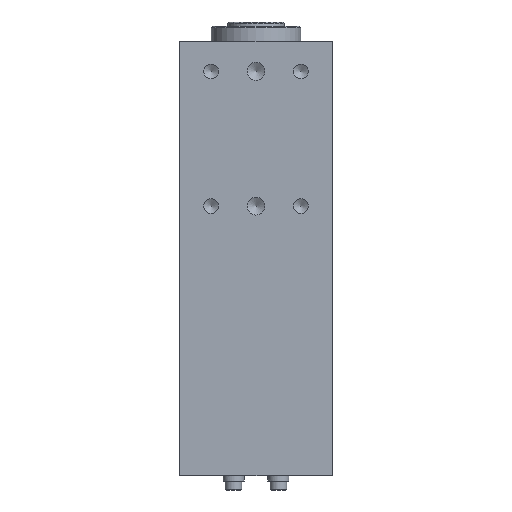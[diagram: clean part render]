
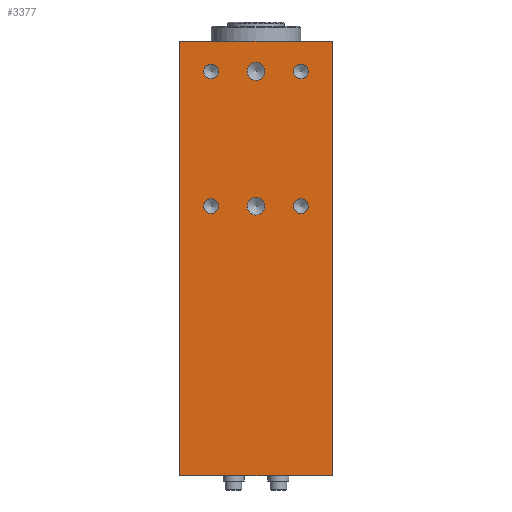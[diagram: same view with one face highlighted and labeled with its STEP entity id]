
A CAD part, front view. The second image highlights one B-rep face of the part: STEP entity #3377.
In plain terms, the highlighted planar face has unit normal (0, -1, 0) as drawn and (1, 0, 0) by its records, which use the part's own axes.
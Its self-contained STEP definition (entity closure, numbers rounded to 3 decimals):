
#240=FACE_BOUND('',#758,.T.);
#241=FACE_BOUND('',#759,.T.);
#242=FACE_BOUND('',#760,.T.);
#243=FACE_BOUND('',#761,.T.);
#244=FACE_BOUND('',#762,.T.);
#245=FACE_BOUND('',#763,.T.);
#327=PLANE('',#3853);
#544=FACE_OUTER_BOUND('',#757,.T.);
#757=EDGE_LOOP('',(#3045,#3046,#3047,#3048));
#758=EDGE_LOOP('',(#3049,#3050));
#759=EDGE_LOOP('',(#3051,#3052));
#760=EDGE_LOOP('',(#3053,#3054));
#761=EDGE_LOOP('',(#3055,#3056));
#762=EDGE_LOOP('',(#3057,#3058));
#763=EDGE_LOOP('',(#3059,#3060));
#877=LINE('',#5318,#1111);
#975=LINE('',#5825,#1209);
#987=LINE('',#5847,#1221);
#988=LINE('',#5849,#1222);
#1111=VECTOR('',#4303,10.);
#1209=VECTOR('',#4757,10.);
#1221=VECTOR('',#4789,10.);
#1222=VECTOR('',#4792,10.);
#1405=CIRCLE('',#3722,2.459);
#1406=CIRCLE('',#3723,2.459);
#1409=CIRCLE('',#3728,2.459);
#1410=CIRCLE('',#3729,2.459);
#1413=CIRCLE('',#3734,2.459);
#1414=CIRCLE('',#3735,2.459);
#1417=CIRCLE('',#3740,2.459);
#1418=CIRCLE('',#3741,2.459);
#1421=CIRCLE('',#3746,3.);
#1422=CIRCLE('',#3747,3.);
#1425=CIRCLE('',#3752,3.);
#1426=CIRCLE('',#3753,3.);
#1617=VERTEX_POINT('',#5315);
#1618=VERTEX_POINT('',#5317);
#1667=VERTEX_POINT('',#5460);
#1668=VERTEX_POINT('',#5461);
#1672=VERTEX_POINT('',#5473);
#1673=VERTEX_POINT('',#5474);
#1677=VERTEX_POINT('',#5486);
#1678=VERTEX_POINT('',#5487);
#1682=VERTEX_POINT('',#5499);
#1683=VERTEX_POINT('',#5500);
#1687=VERTEX_POINT('',#5512);
#1688=VERTEX_POINT('',#5513);
#1692=VERTEX_POINT('',#5525);
#1693=VERTEX_POINT('',#5526);
#1768=VERTEX_POINT('',#5822);
#1769=VERTEX_POINT('',#5824);
#1983=EDGE_CURVE('',#1617,#1618,#877,.T.);
#2056=EDGE_CURVE('',#1667,#1668,#1405,.T.);
#2057=EDGE_CURVE('',#1668,#1667,#1406,.T.);
#2062=EDGE_CURVE('',#1672,#1673,#1409,.T.);
#2063=EDGE_CURVE('',#1673,#1672,#1410,.T.);
#2068=EDGE_CURVE('',#1677,#1678,#1413,.T.);
#2069=EDGE_CURVE('',#1678,#1677,#1414,.T.);
#2074=EDGE_CURVE('',#1682,#1683,#1417,.T.);
#2075=EDGE_CURVE('',#1683,#1682,#1418,.T.);
#2080=EDGE_CURVE('',#1687,#1688,#1421,.T.);
#2081=EDGE_CURVE('',#1688,#1687,#1422,.T.);
#2086=EDGE_CURVE('',#1692,#1693,#1425,.T.);
#2087=EDGE_CURVE('',#1693,#1692,#1426,.T.);
#2194=EDGE_CURVE('',#1768,#1769,#975,.T.);
#2206=EDGE_CURVE('',#1618,#1768,#987,.T.);
#2207=EDGE_CURVE('',#1617,#1769,#988,.T.);
#3045=ORIENTED_EDGE('',*,*,#1983,.F.);
#3046=ORIENTED_EDGE('',*,*,#2207,.T.);
#3047=ORIENTED_EDGE('',*,*,#2194,.F.);
#3048=ORIENTED_EDGE('',*,*,#2206,.F.);
#3049=ORIENTED_EDGE('',*,*,#2056,.T.);
#3050=ORIENTED_EDGE('',*,*,#2057,.T.);
#3051=ORIENTED_EDGE('',*,*,#2062,.T.);
#3052=ORIENTED_EDGE('',*,*,#2063,.T.);
#3053=ORIENTED_EDGE('',*,*,#2068,.T.);
#3054=ORIENTED_EDGE('',*,*,#2069,.T.);
#3055=ORIENTED_EDGE('',*,*,#2074,.T.);
#3056=ORIENTED_EDGE('',*,*,#2075,.T.);
#3057=ORIENTED_EDGE('',*,*,#2080,.T.);
#3058=ORIENTED_EDGE('',*,*,#2081,.T.);
#3059=ORIENTED_EDGE('',*,*,#2086,.T.);
#3060=ORIENTED_EDGE('',*,*,#2087,.T.);
#3377=ADVANCED_FACE('',(#544,#240,#241,#242,#243,#244,#245),#327,.T.);
#3722=AXIS2_PLACEMENT_3D('',#5462,#4457,#4458);
#3723=AXIS2_PLACEMENT_3D('',#5463,#4459,#4460);
#3728=AXIS2_PLACEMENT_3D('',#5475,#4471,#4472);
#3729=AXIS2_PLACEMENT_3D('',#5476,#4473,#4474);
#3734=AXIS2_PLACEMENT_3D('',#5488,#4485,#4486);
#3735=AXIS2_PLACEMENT_3D('',#5489,#4487,#4488);
#3740=AXIS2_PLACEMENT_3D('',#5501,#4499,#4500);
#3741=AXIS2_PLACEMENT_3D('',#5502,#4501,#4502);
#3746=AXIS2_PLACEMENT_3D('',#5514,#4513,#4514);
#3747=AXIS2_PLACEMENT_3D('',#5515,#4515,#4516);
#3752=AXIS2_PLACEMENT_3D('',#5527,#4527,#4528);
#3753=AXIS2_PLACEMENT_3D('',#5528,#4529,#4530);
#3853=AXIS2_PLACEMENT_3D('',#5853,#4798,#4799);
#4303=DIRECTION('',(0.,-1.,0.));
#4457=DIRECTION('center_axis',(-1.,0.,0.));
#4458=DIRECTION('ref_axis',(0.,0.,-1.));
#4459=DIRECTION('center_axis',(-1.,0.,0.));
#4460=DIRECTION('ref_axis',(0.,0.,-1.));
#4471=DIRECTION('center_axis',(-1.,0.,0.));
#4472=DIRECTION('ref_axis',(0.,0.,-1.));
#4473=DIRECTION('center_axis',(-1.,0.,0.));
#4474=DIRECTION('ref_axis',(0.,0.,-1.));
#4485=DIRECTION('center_axis',(-1.,0.,0.));
#4486=DIRECTION('ref_axis',(0.,0.,-1.));
#4487=DIRECTION('center_axis',(-1.,0.,0.));
#4488=DIRECTION('ref_axis',(0.,0.,-1.));
#4499=DIRECTION('center_axis',(-1.,0.,0.));
#4500=DIRECTION('ref_axis',(0.,0.,-1.));
#4501=DIRECTION('center_axis',(-1.,0.,0.));
#4502=DIRECTION('ref_axis',(0.,0.,-1.));
#4513=DIRECTION('center_axis',(-1.,0.,0.));
#4514=DIRECTION('ref_axis',(0.,0.,-1.));
#4515=DIRECTION('center_axis',(-1.,0.,0.));
#4516=DIRECTION('ref_axis',(0.,0.,-1.));
#4527=DIRECTION('center_axis',(-1.,0.,0.));
#4528=DIRECTION('ref_axis',(0.,0.,-1.));
#4529=DIRECTION('center_axis',(-1.,0.,0.));
#4530=DIRECTION('ref_axis',(0.,0.,-1.));
#4757=DIRECTION('',(0.,1.,0.));
#4789=DIRECTION('',(0.,0.,1.));
#4792=DIRECTION('',(0.,0.,1.));
#4798=DIRECTION('center_axis',(1.,0.,0.));
#4799=DIRECTION('ref_axis',(0.,1.,0.));
#5315=CARTESIAN_POINT('',(37.,25.4,0.));
#5317=CARTESIAN_POINT('',(37.,-25.4,0.));
#5318=CARTESIAN_POINT('',(37.,25.4,0.));
#5460=CARTESIAN_POINT('',(37.,15.,87.542));
#5461=CARTESIAN_POINT('',(37.,15.,92.459));
#5462=CARTESIAN_POINT('Origin',(37.,15.,90.));
#5463=CARTESIAN_POINT('Origin',(37.,15.,90.));
#5473=CARTESIAN_POINT('',(37.,-15.,132.542));
#5474=CARTESIAN_POINT('',(37.,-15.,137.459));
#5475=CARTESIAN_POINT('Origin',(37.,-15.,135.));
#5476=CARTESIAN_POINT('Origin',(37.,-15.,135.));
#5486=CARTESIAN_POINT('',(37.,-15.,87.542));
#5487=CARTESIAN_POINT('',(37.,-15.,92.459));
#5488=CARTESIAN_POINT('Origin',(37.,-15.,90.));
#5489=CARTESIAN_POINT('Origin',(37.,-15.,90.));
#5499=CARTESIAN_POINT('',(37.,15.,132.542));
#5500=CARTESIAN_POINT('',(37.,15.,137.459));
#5501=CARTESIAN_POINT('Origin',(37.,15.,135.));
#5502=CARTESIAN_POINT('Origin',(37.,15.,135.));
#5512=CARTESIAN_POINT('',(37.,0.,132.));
#5513=CARTESIAN_POINT('',(37.,0.,138.));
#5514=CARTESIAN_POINT('Origin',(37.,0.,135.));
#5515=CARTESIAN_POINT('Origin',(37.,0.,135.));
#5525=CARTESIAN_POINT('',(37.,0.,87.));
#5526=CARTESIAN_POINT('',(37.,0.,93.));
#5527=CARTESIAN_POINT('Origin',(37.,0.,90.));
#5528=CARTESIAN_POINT('Origin',(37.,0.,90.));
#5822=CARTESIAN_POINT('',(37.,-25.4,145.));
#5824=CARTESIAN_POINT('',(37.,25.4,145.));
#5825=CARTESIAN_POINT('',(37.,25.4,145.));
#5847=CARTESIAN_POINT('',(37.,-25.4,0.));
#5849=CARTESIAN_POINT('',(37.,25.4,0.));
#5853=CARTESIAN_POINT('Origin',(37.,-25.4,0.));
